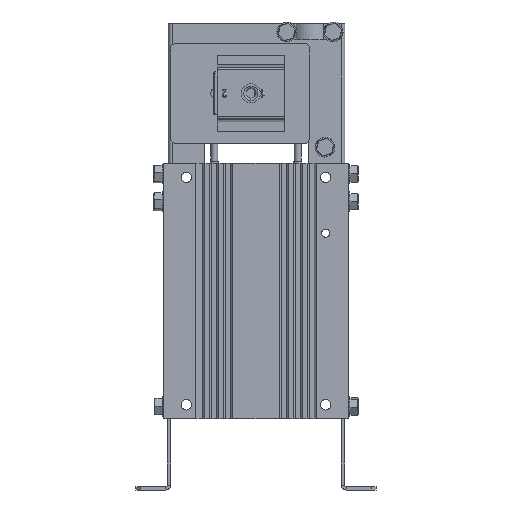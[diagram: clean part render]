
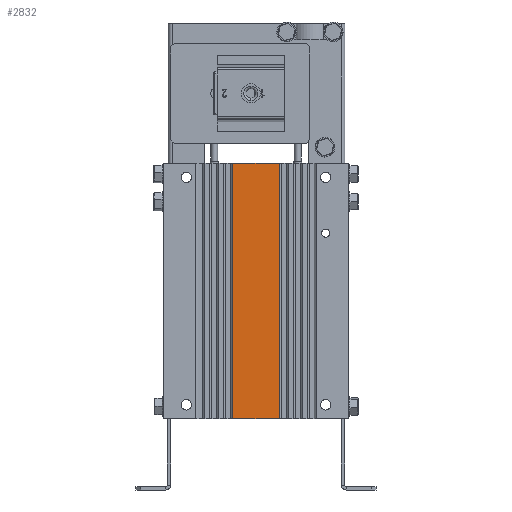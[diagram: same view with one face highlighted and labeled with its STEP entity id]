
A CAD part, front view. The second image highlights one B-rep face of the part: STEP entity #2832.
In plain terms, the highlighted planar face has unit normal (0, -1, 0).
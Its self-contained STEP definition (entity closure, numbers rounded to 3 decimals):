
#2626 = VERTEX_POINT ( 'NONE', #8304 ) ;
#2635 = ORIENTED_EDGE ( 'NONE', *, *, #2771, .T. ) ;
#2641 = EDGE_CURVE ( 'NONE', #2668, #2669, #8591, .T. ) ;
#2642 = EDGE_LOOP ( 'NONE', ( #2800, #2845, #2770, #2635 ) ) ;
#2668 = VERTEX_POINT ( 'NONE', #8440 ) ;
#2669 = VERTEX_POINT ( 'NONE', #8514 ) ;
#2770 = ORIENTED_EDGE ( 'NONE', *, *, #2846, .T. ) ;
#2771 = EDGE_CURVE ( 'NONE', #2833, #2669, #8620, .T. ) ;
#2800 = ORIENTED_EDGE ( 'NONE', *, *, #2641, .F. ) ;
#2801 = EDGE_CURVE ( 'NONE', #2668, #2626, #8647, .T. ) ;
#2832 = ADVANCED_FACE ( 'NONE', ( #8721 ), #8883, .F. ) ;
#2833 = VERTEX_POINT ( 'NONE', #8726 ) ;
#2845 = ORIENTED_EDGE ( 'NONE', *, *, #2801, .T. ) ;
#2846 = EDGE_CURVE ( 'NONE', #2626, #2833, #8833, .T. ) ;
#8304 = CARTESIAN_POINT ( 'NONE',  ( -10., -7.5, -55. ) ) ;
#8440 = CARTESIAN_POINT ( 'NONE',  ( -10., -7.5, 55. ) ) ;
#8514 = CARTESIAN_POINT ( 'NONE',  ( 10., -7.5, 55. ) ) ;
#8589 = VECTOR ( 'NONE', #8614, 1000. ) ;
#8590 = CARTESIAN_POINT ( 'NONE',  ( -40., -7.5, 55. ) ) ;
#8591 = LINE ( 'NONE', #8590, #8589 ) ;
#8614 = DIRECTION ( 'NONE',  ( 1., 0., 0. ) ) ;
#8619 = CARTESIAN_POINT ( 'NONE',  ( 10., -7.5, 55. ) ) ;
#8620 = LINE ( 'NONE', #8619, #8635 ) ;
#8634 = DIRECTION ( 'NONE',  ( 0., 0., 1. ) ) ;
#8635 = VECTOR ( 'NONE', #8634, 1000. ) ;
#8646 = CARTESIAN_POINT ( 'NONE',  ( -10., -7.5, 55. ) ) ;
#8647 = LINE ( 'NONE', #8646, #8691 ) ;
#8690 = DIRECTION ( 'NONE',  ( 0., 0., -1. ) ) ;
#8691 = VECTOR ( 'NONE', #8690, 1000. ) ;
#8721 = FACE_OUTER_BOUND ( 'NONE', #2642, .T. ) ;
#8725 = CARTESIAN_POINT ( 'NONE',  ( -40., -7.5, 55. ) ) ;
#8726 = CARTESIAN_POINT ( 'NONE',  ( 10., -7.5, -55. ) ) ;
#8727 = AXIS2_PLACEMENT_3D ( 'NONE', #8725, #8880, #8879 ) ;
#8786 = DIRECTION ( 'NONE',  ( 1., 0., 0. ) ) ;
#8787 = CARTESIAN_POINT ( 'NONE',  ( -40., -7.5, -55. ) ) ;
#8829 = VECTOR ( 'NONE', #8786, 1000. ) ;
#8833 = LINE ( 'NONE', #8787, #8829 ) ;
#8879 = DIRECTION ( 'NONE',  ( 0., 0., 1. ) ) ;
#8880 = DIRECTION ( 'NONE',  ( 0., 1., 0. ) ) ;
#8883 = PLANE ( 'NONE',  #8727 ) ;
